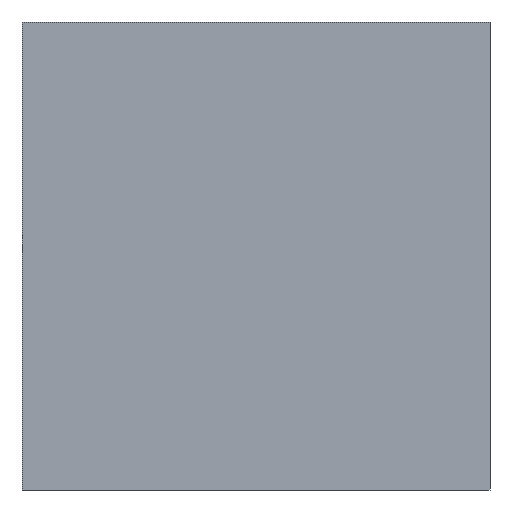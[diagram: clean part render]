
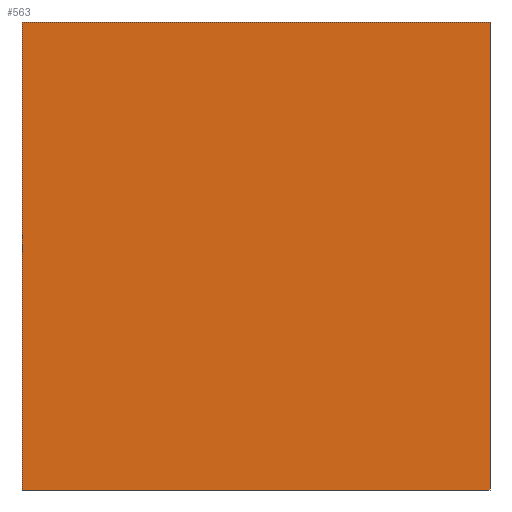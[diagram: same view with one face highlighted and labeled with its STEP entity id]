
A CAD part, front view. The second image highlights one B-rep face of the part: STEP entity #563.
In plain terms, the highlighted planar face has unit normal (0, -1, 0).
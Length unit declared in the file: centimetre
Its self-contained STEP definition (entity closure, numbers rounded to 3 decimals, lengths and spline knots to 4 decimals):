
#26 = CARTESIAN_POINT ( 'NONE',  ( 0., 0., 0. ) ) ;
#36 = AXIS2_PLACEMENT_3D ( 'NONE', #116, #172, #213 ) ;
#64 = DIRECTION ( 'NONE',  ( 1., 0., 0. ) ) ;
#66 = CARTESIAN_POINT ( 'NONE',  ( 1000., 0., 1000. ) ) ;
#67 = DIRECTION ( 'NONE',  ( 1., 0., 0. ) ) ;
#89 = CARTESIAN_POINT ( 'NONE',  ( 0., 0., 1000. ) ) ;
#113 = CARTESIAN_POINT ( 'NONE',  ( 1000., 0., 1000. ) ) ;
#116 = CARTESIAN_POINT ( 'NONE',  ( 0., 0., 1000. ) ) ;
#119 = VECTOR ( 'NONE', #454, 100. ) ;
#148 = EDGE_CURVE ( 'NONE', #320, #359, #334, .T. ) ;
#167 = VECTOR ( 'NONE', #208, 100. ) ;
#172 = DIRECTION ( 'NONE',  ( 0., 1., 0. ) ) ;
#188 = ORIENTED_EDGE ( 'NONE', *, *, #148, .F. ) ;
#191 = LINE ( 'NONE', #378, #119 ) ;
#208 = DIRECTION ( 'NONE',  ( 0., 0., -1. ) ) ;
#213 = DIRECTION ( 'NONE',  ( 0., 0., 1. ) ) ;
#245 = CARTESIAN_POINT ( 'NONE',  ( 1000., 0., 0. ) ) ;
#256 = EDGE_CURVE ( 'NONE', #289, #258, #547, .T. ) ;
#258 = VERTEX_POINT ( 'NONE', #245 ) ;
#260 = FACE_OUTER_BOUND ( 'NONE', #327, .T. ) ;
#284 = ORIENTED_EDGE ( 'NONE', *, *, #292, .F. ) ;
#289 = VERTEX_POINT ( 'NONE', #26 ) ;
#292 = EDGE_CURVE ( 'NONE', #359, #258, #386, .T. ) ;
#305 = CARTESIAN_POINT ( 'NONE',  ( 0., 0., 0. ) ) ;
#320 = VERTEX_POINT ( 'NONE', #89 ) ;
#327 = EDGE_LOOP ( 'NONE', ( #499, #284, #188, #556 ) ) ;
#334 = LINE ( 'NONE', #379, #482 ) ;
#359 = VERTEX_POINT ( 'NONE', #66 ) ;
#375 = EDGE_CURVE ( 'NONE', #320, #289, #191, .T. ) ;
#378 = CARTESIAN_POINT ( 'NONE',  ( 0., 0., 1000. ) ) ;
#379 = CARTESIAN_POINT ( 'NONE',  ( 0., 0., 1000. ) ) ;
#386 = LINE ( 'NONE', #113, #167 ) ;
#415 = VECTOR ( 'NONE', #64, 100. ) ;
#454 = DIRECTION ( 'NONE',  ( 0., 0., -1. ) ) ;
#482 = VECTOR ( 'NONE', #67, 100. ) ;
#499 = ORIENTED_EDGE ( 'NONE', *, *, #256, .T. ) ;
#515 = PLANE ( 'NONE',  #36 ) ;
#547 = LINE ( 'NONE', #305, #415 ) ;
#556 = ORIENTED_EDGE ( 'NONE', *, *, #375, .T. ) ;
#563 = ADVANCED_FACE ( 'NONE', ( #260 ), #515, .F. ) ;
